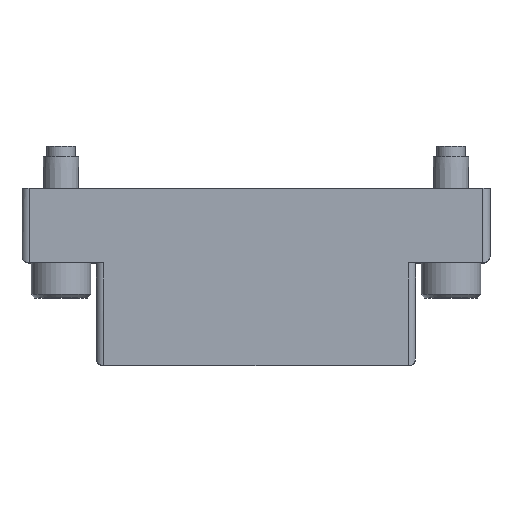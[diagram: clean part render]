
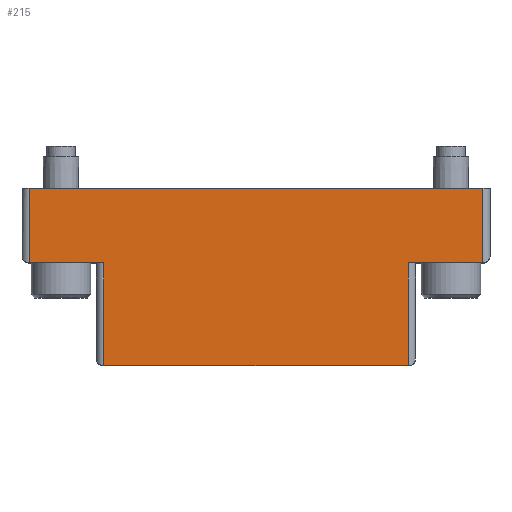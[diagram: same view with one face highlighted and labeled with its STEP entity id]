
A CAD part, top view. The second image highlights one B-rep face of the part: STEP entity #215.
In plain terms, the highlighted planar face has unit normal (0, 0, 1).
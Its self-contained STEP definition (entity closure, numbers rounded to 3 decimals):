
#215=ADVANCED_FACE('',(#492),#493,.F.);
#492=FACE_OUTER_BOUND('',#879,.T.);
#493=PLANE('',#880);
#879=EDGE_LOOP('',(#1321,#1322,#1323,#1324,#1325,#1326,#1327,#1328));
#880=AXIS2_PLACEMENT_3D('',#1329,#1330,#1331);
#1321=ORIENTED_EDGE('',*,*,#1995,.F.);
#1322=ORIENTED_EDGE('',*,*,#2056,.T.);
#1323=ORIENTED_EDGE('',*,*,#2057,.F.);
#1324=ORIENTED_EDGE('',*,*,#2058,.T.);
#1325=ORIENTED_EDGE('',*,*,#2059,.F.);
#1326=ORIENTED_EDGE('',*,*,#2060,.T.);
#1327=ORIENTED_EDGE('',*,*,#2061,.F.);
#1328=ORIENTED_EDGE('',*,*,#2062,.T.);
#1329=CARTESIAN_POINT('',(33.0,-25.0,19.5));
#1330=DIRECTION('',(0.0,0.0,-1.0));
#1331=DIRECTION('',(0.0,-1.0,0.0));
#1995=EDGE_CURVE('',#2295,#2296,#2297,.T.);
#2056=EDGE_CURVE('',#2295,#2397,#2398,.T.);
#2057=EDGE_CURVE('',#2399,#2397,#2400,.T.);
#2058=EDGE_CURVE('',#2399,#2401,#2402,.T.);
#2059=EDGE_CURVE('',#2403,#2401,#2404,.T.);
#2060=EDGE_CURVE('',#2403,#2405,#2406,.T.);
#2061=EDGE_CURVE('',#2407,#2405,#2408,.T.);
#2062=EDGE_CURVE('',#2407,#2296,#2409,.T.);
#2295=VERTEX_POINT('',#2807);
#2296=VERTEX_POINT('',#2808);
#2297=LINE('',#2809,#2810);
#2397=VERTEX_POINT('',#2946);
#2398=LINE('',#2947,#2948);
#2399=VERTEX_POINT('',#2949);
#2400=LINE('',#2950,#2951);
#2401=VERTEX_POINT('',#2952);
#2402=LINE('',#2953,#2954);
#2403=VERTEX_POINT('',#2955);
#2404=LINE('',#2956,#2957);
#2405=VERTEX_POINT('',#2958);
#2406=LINE('',#2959,#2960);
#2407=VERTEX_POINT('',#2961);
#2408=LINE('',#2962,#2963);
#2409=LINE('',#2964,#2965);
#2807=CARTESIAN_POINT('',(21.5,-25.0,19.5));
#2808=CARTESIAN_POINT('',(-21.5,-25.0,19.5));
#2809=CARTESIAN_POINT('',(33.0,-25.0,19.5));
#2810=VECTOR('',#3434,1.0);
#2946=CARTESIAN_POINT('',(21.5,-10.5,19.5));
#2947=CARTESIAN_POINT('',(21.5,-10.5,19.5));
#2948=VECTOR('',#3498,1.0);
#2949=CARTESIAN_POINT('',(32.0,-10.5,19.5));
#2950=CARTESIAN_POINT('',(33.0,-10.5,19.5));
#2951=VECTOR('',#3499,1.0);
#2952=CARTESIAN_POINT('',(32.0,0.,19.5));
#2953=CARTESIAN_POINT('',(32.0,-25.0,19.5));
#2954=VECTOR('',#3500,1.0);
#2955=CARTESIAN_POINT('',(-32.0,0.,19.5));
#2956=CARTESIAN_POINT('',(-33.0,0.,19.5));
#2957=VECTOR('',#3501,1.0);
#2958=CARTESIAN_POINT('',(-32.0,-10.5,19.5));
#2959=CARTESIAN_POINT('',(-32.0,-25.0,19.5));
#2960=VECTOR('',#3502,1.0);
#2961=CARTESIAN_POINT('',(-21.5,-10.5,19.5));
#2962=CARTESIAN_POINT('',(-22.5,-10.5,19.5));
#2963=VECTOR('',#3503,1.0);
#2964=CARTESIAN_POINT('',(-21.5,-24.0,19.5));
#2965=VECTOR('',#3504,1.0);
#3434=DIRECTION('',(-1.0,0.0,0.0));
#3498=DIRECTION('',(0.0,1.0,0.0));
#3499=DIRECTION('',(-1.0,0.0,0.0));
#3500=DIRECTION('',(0.0,1.0,0.0));
#3501=DIRECTION('',(1.0,0.0,0.0));
#3502=DIRECTION('',(0.0,-1.0,0.0));
#3503=DIRECTION('',(-1.0,0.0,0.0));
#3504=DIRECTION('',(0.0,-1.0,0.0));
